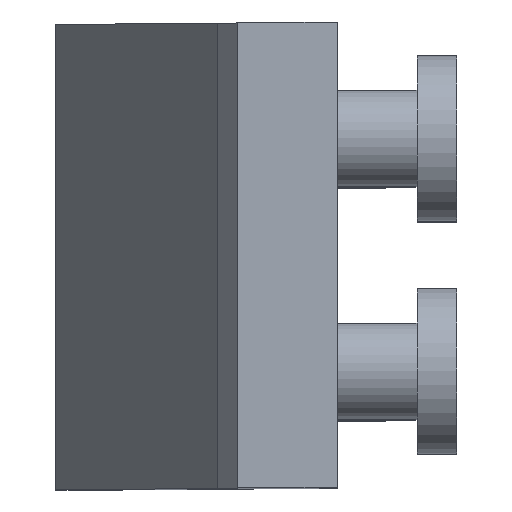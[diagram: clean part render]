
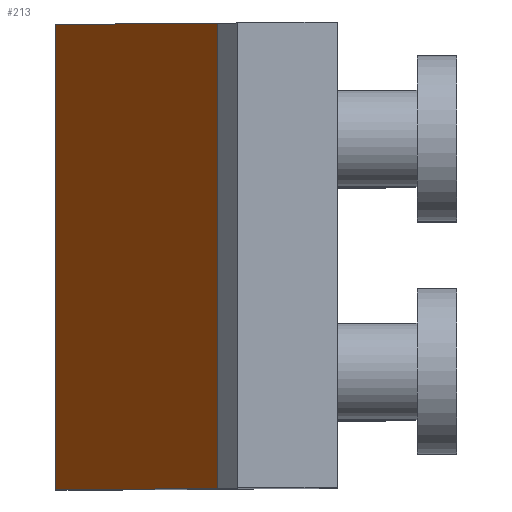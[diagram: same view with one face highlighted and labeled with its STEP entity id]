
A CAD part, top view. The second image highlights one B-rep face of the part: STEP entity #213.
In plain terms, the highlighted planar face has unit normal (-0.974, 0, 0.225).
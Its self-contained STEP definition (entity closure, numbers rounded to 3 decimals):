
#32 = PLANE('',#33);
#33 = AXIS2_PLACEMENT_3D('',#34,#35,#36);
#34 = CARTESIAN_POINT('',(-11.538,-7.,-146.5));
#35 = DIRECTION('',(1.,0.,0.006));
#36 = DIRECTION('',(-0.006,0.,1.));
#57 = VERTEX_POINT('',#58);
#58 = CARTESIAN_POINT('',(-11.562,7.,-142.273));
#72 = PLANE('',#73);
#73 = AXIS2_PLACEMENT_3D('',#74,#75,#76);
#74 = CARTESIAN_POINT('',(-6.545,7.,-123.131));
#75 = DIRECTION('',(0.,1.,0.));
#76 = DIRECTION('',(0.,-0.,1.));
#84 = EDGE_CURVE('',#85,#57,#87,.T.);
#85 = VERTEX_POINT('',#86);
#86 = CARTESIAN_POINT('',(-11.562,-7.,-142.273));
#87 = SURFACE_CURVE('',#88,(#92,#99),.PCURVE_S1.);
#88 = LINE('',#89,#90);
#89 = CARTESIAN_POINT('',(-11.562,-7.,-142.273));
#90 = VECTOR('',#91,1.);
#91 = DIRECTION('',(-0.,1.,-0.));
#92 = PCURVE('',#32,#93);
#93 = DEFINITIONAL_REPRESENTATION('',(#94),#98);
#94 = LINE('',#95,#96);
#95 = CARTESIAN_POINT('',(4.227,0.));
#96 = VECTOR('',#97,1.);
#97 = DIRECTION('',(0.,-1.));
#98 = ( GEOMETRIC_REPRESENTATION_CONTEXT(2) 
PARAMETRIC_REPRESENTATION_CONTEXT() REPRESENTATION_CONTEXT('2D SPACE',''
  ) );
#99 = PCURVE('',#100,#105);
#100 = PLANE('',#101);
#101 = AXIS2_PLACEMENT_3D('',#102,#103,#104);
#102 = CARTESIAN_POINT('',(-11.562,-7.,-142.273));
#103 = DIRECTION('',(0.974,0.,-0.225));
#104 = DIRECTION('',(0.225,0.,0.974));
#105 = DEFINITIONAL_REPRESENTATION('',(#106),#110);
#106 = LINE('',#107,#108);
#107 = CARTESIAN_POINT('',(0.,0.));
#108 = VECTOR('',#109,1.);
#109 = DIRECTION('',(0.,-1.));
#110 = ( GEOMETRIC_REPRESENTATION_CONTEXT(2) 
PARAMETRIC_REPRESENTATION_CONTEXT() REPRESENTATION_CONTEXT('2D SPACE',''
  ) );
#126 = PLANE('',#127);
#127 = AXIS2_PLACEMENT_3D('',#128,#129,#130);
#128 = CARTESIAN_POINT('',(-6.545,-7.,-123.131));
#129 = DIRECTION('',(0.,1.,0.));
#130 = DIRECTION('',(0.,-0.,1.));
#213 = ADVANCED_FACE('',(#214),#100,.F.);
#214 = FACE_BOUND('',#215,.F.);
#215 = EDGE_LOOP('',(#216,#217,#240,#268));
#216 = ORIENTED_EDGE('',*,*,#84,.T.);
#217 = ORIENTED_EDGE('',*,*,#218,.F.);
#218 = EDGE_CURVE('',#219,#57,#221,.T.);
#219 = VERTEX_POINT('',#220);
#220 = CARTESIAN_POINT('',(-6.683,7.,-121.136));
#221 = SURFACE_CURVE('',#222,(#226,#233),.PCURVE_S1.);
#222 = LINE('',#223,#224);
#223 = CARTESIAN_POINT('',(-6.683,7.,-121.136));
#224 = VECTOR('',#225,1.);
#225 = DIRECTION('',(-0.225,0.,-0.974));
#226 = PCURVE('',#100,#227);
#227 = DEFINITIONAL_REPRESENTATION('',(#228),#232);
#228 = LINE('',#229,#230);
#229 = CARTESIAN_POINT('',(21.692,-14.));
#230 = VECTOR('',#231,1.);
#231 = DIRECTION('',(-1.,-0.));
#232 = ( GEOMETRIC_REPRESENTATION_CONTEXT(2) 
PARAMETRIC_REPRESENTATION_CONTEXT() REPRESENTATION_CONTEXT('2D SPACE',''
  ) );
#233 = PCURVE('',#72,#234);
#234 = DEFINITIONAL_REPRESENTATION('',(#235),#239);
#235 = LINE('',#236,#237);
#236 = CARTESIAN_POINT('',(1.994,-0.138));
#237 = VECTOR('',#238,1.);
#238 = DIRECTION('',(-0.974,-0.225));
#239 = ( GEOMETRIC_REPRESENTATION_CONTEXT(2) 
PARAMETRIC_REPRESENTATION_CONTEXT() REPRESENTATION_CONTEXT('2D SPACE',''
  ) );
#240 = ORIENTED_EDGE('',*,*,#241,.F.);
#241 = EDGE_CURVE('',#242,#219,#244,.T.);
#242 = VERTEX_POINT('',#243);
#243 = CARTESIAN_POINT('',(-6.683,-7.,-121.136));
#244 = SURFACE_CURVE('',#245,(#249,#256),.PCURVE_S1.);
#245 = LINE('',#246,#247);
#246 = CARTESIAN_POINT('',(-6.683,-7.,-121.136));
#247 = VECTOR('',#248,1.);
#248 = DIRECTION('',(-0.,1.,-0.));
#249 = PCURVE('',#100,#250);
#250 = DEFINITIONAL_REPRESENTATION('',(#251),#255);
#251 = LINE('',#252,#253);
#252 = CARTESIAN_POINT('',(21.692,0.));
#253 = VECTOR('',#254,1.);
#254 = DIRECTION('',(0.,-1.));
#255 = ( GEOMETRIC_REPRESENTATION_CONTEXT(2) 
PARAMETRIC_REPRESENTATION_CONTEXT() REPRESENTATION_CONTEXT('2D SPACE',''
  ) );
#256 = PCURVE('',#257,#262);
#257 = PLANE('',#258);
#258 = AXIS2_PLACEMENT_3D('',#259,#260,#261);
#259 = CARTESIAN_POINT('',(-6.683,-7.,-121.136));
#260 = DIRECTION('',(0.99,0.,-0.143));
#261 = DIRECTION('',(0.143,0.,0.99));
#262 = DEFINITIONAL_REPRESENTATION('',(#263),#267);
#263 = LINE('',#264,#265);
#264 = CARTESIAN_POINT('',(0.,0.));
#265 = VECTOR('',#266,1.);
#266 = DIRECTION('',(0.,-1.));
#267 = ( GEOMETRIC_REPRESENTATION_CONTEXT(2) 
PARAMETRIC_REPRESENTATION_CONTEXT() REPRESENTATION_CONTEXT('2D SPACE',''
  ) );
#268 = ORIENTED_EDGE('',*,*,#269,.F.);
#269 = EDGE_CURVE('',#85,#242,#270,.T.);
#270 = SURFACE_CURVE('',#271,(#275,#282),.PCURVE_S1.);
#271 = LINE('',#272,#273);
#272 = CARTESIAN_POINT('',(-11.562,-7.,-142.273));
#273 = VECTOR('',#274,1.);
#274 = DIRECTION('',(0.225,0.,0.974));
#275 = PCURVE('',#100,#276);
#276 = DEFINITIONAL_REPRESENTATION('',(#277),#281);
#277 = LINE('',#278,#279);
#278 = CARTESIAN_POINT('',(0.,0.));
#279 = VECTOR('',#280,1.);
#280 = DIRECTION('',(1.,0.));
#281 = ( GEOMETRIC_REPRESENTATION_CONTEXT(2) 
PARAMETRIC_REPRESENTATION_CONTEXT() REPRESENTATION_CONTEXT('2D SPACE',''
  ) );
#282 = PCURVE('',#126,#283);
#283 = DEFINITIONAL_REPRESENTATION('',(#284),#288);
#284 = LINE('',#285,#286);
#285 = CARTESIAN_POINT('',(-19.142,-5.018));
#286 = VECTOR('',#287,1.);
#287 = DIRECTION('',(0.974,0.225));
#288 = ( GEOMETRIC_REPRESENTATION_CONTEXT(2) 
PARAMETRIC_REPRESENTATION_CONTEXT() REPRESENTATION_CONTEXT('2D SPACE',''
  ) );
